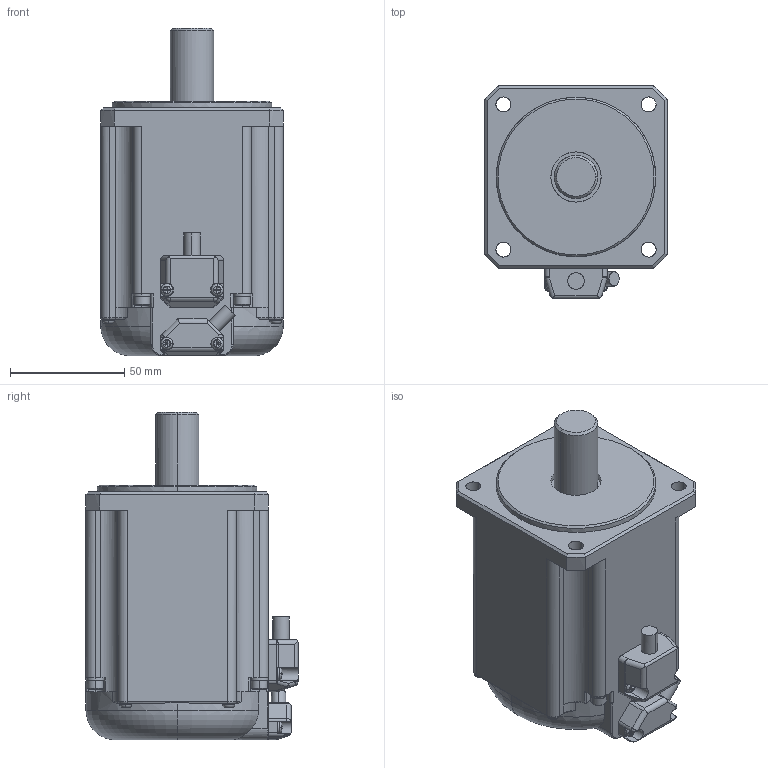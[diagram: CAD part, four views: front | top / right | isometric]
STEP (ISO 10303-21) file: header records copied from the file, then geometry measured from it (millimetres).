
FILE_DESCRIPTION (( 'STEP AP203' ), '1' );
FILE_NAME ('TS4614-N1000.STEP', '2010-08-04T14:35:31', ( 'render' ), ( '' ), 'SwSTEP 2.0', 'SolidWorks 2009', '' );
FILE_SCHEMA (( 'CONFIG_CONTROL_DESIGN' ));
Length unit declared in the file: millimetre
Products named in the file (1): TS4614-N1000
Bounding box: 80 x 93 x 143.7 mm (x, y, z)
Volume: 630126.6 mm3; surface area: 48934.2 mm2
Topology: 1 solids, 1 shells, 581 faces, 1426 edges, 860 vertices
Faces by surface type: plane 284, cylinder 189, cone 32, torus 29, sphere 28, bspline 19
Entity records: 20415 total; most frequent: CARTESIAN_POINT 7990, ORIENTED_EDGE 2834, DIRECTION 2109, EDGE_CURVE 1417, VERTEX_POINT 860, AXIS2_PLACEMENT_3D 761, B_SPLINE_CURVE_WITH_KNOTS 616, EDGE_LOOP 611
